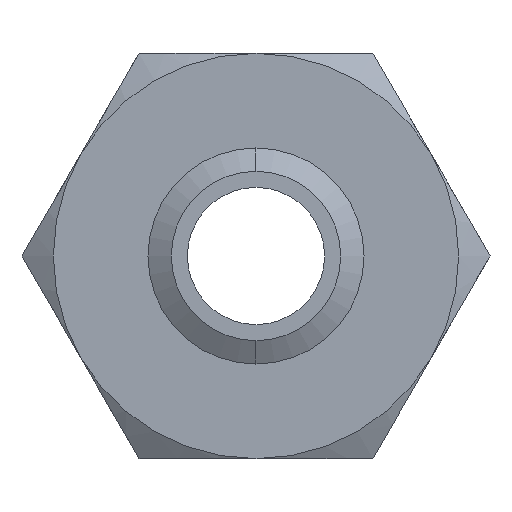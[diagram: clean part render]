
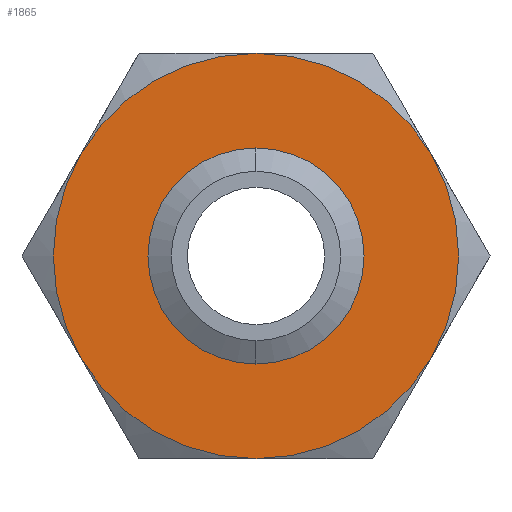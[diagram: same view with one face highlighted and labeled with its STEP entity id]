
A CAD part, front view. The second image highlights one B-rep face of the part: STEP entity #1865.
In plain terms, the highlighted planar face has unit normal (0, -1, 0).
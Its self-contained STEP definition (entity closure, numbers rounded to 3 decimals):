
#1293 = CIRCLE ( 'NONE', #1352, 15.67 ) ;
#1323 = FACE_BOUND ( 'NONE', #1847, .T. ) ;
#1324 = FACE_OUTER_BOUND ( 'NONE', #1864, .T. ) ;
#1325 = DIRECTION ( 'NONE',  ( 0., 0., 1. ) ) ;
#1326 = DIRECTION ( 'NONE',  ( 0., 1., 0. ) ) ;
#1327 = CARTESIAN_POINT ( 'NONE',  ( 0., 0., 0. ) ) ;
#1328 = AXIS2_PLACEMENT_3D ( 'NONE', #1327, #1326, #1325 ) ;
#1329 = CIRCLE ( 'NONE', #1328, 37.5 ) ;
#1330 = CARTESIAN_POINT ( 'NONE',  ( 0., 0., 37.5 ) ) ;
#1336 = DIRECTION ( 'NONE',  ( 0., 0., 1. ) ) ;
#1337 = DIRECTION ( 'NONE',  ( 0., 1., 0. ) ) ;
#1338 = CARTESIAN_POINT ( 'NONE',  ( 0., 0., 0. ) ) ;
#1339 = AXIS2_PLACEMENT_3D ( 'NONE', #1338, #1337, #1336 ) ;
#1340 = CIRCLE ( 'NONE', #1339, 37.5 ) ;
#1349 = DIRECTION ( 'NONE',  ( 0., 0., -1. ) ) ;
#1350 = DIRECTION ( 'NONE',  ( 0., -1., 0. ) ) ;
#1351 = CARTESIAN_POINT ( 'NONE',  ( 0., 0., 0. ) ) ;
#1352 = AXIS2_PLACEMENT_3D ( 'NONE', #1351, #1350, #1349 ) ;
#1357 = DIRECTION ( 'NONE',  ( 0., 0., 1. ) ) ;
#1358 = DIRECTION ( 'NONE',  ( 0., 1., 0. ) ) ;
#1359 = CARTESIAN_POINT ( 'NONE',  ( 0., 0., 0. ) ) ;
#1360 = AXIS2_PLACEMENT_3D ( 'NONE', #1359, #1358, #1357 ) ;
#1361 = CIRCLE ( 'NONE', #1360, 37.5 ) ;
#1362 = CARTESIAN_POINT ( 'NONE',  ( 0., 0., -37.5 ) ) ;
#1364 = CARTESIAN_POINT ( 'NONE',  ( -32.476, 0., -18.75 ) ) ;
#1365 = DIRECTION ( 'NONE',  ( 0., 0., 1. ) ) ;
#1366 = DIRECTION ( 'NONE',  ( 0., 1., 0. ) ) ;
#1367 = CARTESIAN_POINT ( 'NONE',  ( 0., 0., 0. ) ) ;
#1368 = AXIS2_PLACEMENT_3D ( 'NONE', #1367, #1366, #1365 ) ;
#1369 = CIRCLE ( 'NONE', #1368, 37.5 ) ;
#1374 = CARTESIAN_POINT ( 'NONE',  ( -32.476, 0., 18.75 ) ) ;
#1375 = DIRECTION ( 'NONE',  ( 0., 0., 1. ) ) ;
#1376 = DIRECTION ( 'NONE',  ( 0., 1., 0. ) ) ;
#1377 = CARTESIAN_POINT ( 'NONE',  ( 0., 0., 0. ) ) ;
#1378 = AXIS2_PLACEMENT_3D ( 'NONE', #1377, #1376, #1375 ) ;
#1379 = CIRCLE ( 'NONE', #1378, 37.5 ) ;
#1384 = DIRECTION ( 'NONE',  ( 0., 0., 1. ) ) ;
#1385 = DIRECTION ( 'NONE',  ( 0., 1., 0. ) ) ;
#1386 = CARTESIAN_POINT ( 'NONE',  ( 21.651, 0., -37.5 ) ) ;
#1387 = AXIS2_PLACEMENT_3D ( 'NONE', #1386, #1385, #1384 ) ;
#1388 = PLANE ( 'NONE',  #1387 ) ;
#1389 = CARTESIAN_POINT ( 'NONE',  ( 32.476, 0., 18.75 ) ) ;
#1416 = DIRECTION ( 'NONE',  ( 0., 0., 1. ) ) ;
#1417 = DIRECTION ( 'NONE',  ( 0., 1., 0. ) ) ;
#1419 = CARTESIAN_POINT ( 'NONE',  ( 0., 0., 0. ) ) ;
#1420 = AXIS2_PLACEMENT_3D ( 'NONE', #1419, #1417, #1416 ) ;
#1421 = CIRCLE ( 'NONE', #1420, 37.5 ) ;
#1422 = CARTESIAN_POINT ( 'NONE',  ( 32.476, 0., -18.75 ) ) ;
#1455 = DIRECTION ( 'NONE',  ( 0., -1., 0. ) ) ;
#1456 = CARTESIAN_POINT ( 'NONE',  ( 0., 0., 0. ) ) ;
#1457 = AXIS2_PLACEMENT_3D ( 'NONE', #1456, #1455, #1517 ) ;
#1461 = CIRCLE ( 'NONE', #1457, 15.67 ) ;
#1471 = CARTESIAN_POINT ( 'NONE',  ( 0., 0., 15.67 ) ) ;
#1473 = CARTESIAN_POINT ( 'NONE',  ( 0., 0., -15.67 ) ) ;
#1517 = DIRECTION ( 'NONE',  ( 0., 0., -1. ) ) ;
#1846 = EDGE_CURVE ( 'NONE', #1923, #1922, #1293, .T. ) ;
#1847 = EDGE_LOOP ( 'NONE', ( #1848, #1850 ) ) ;
#1848 = ORIENTED_EDGE ( 'NONE', *, *, #1928, .F. ) ;
#1850 = ORIENTED_EDGE ( 'NONE', *, *, #1846, .F. ) ;
#1857 = ORIENTED_EDGE ( 'NONE', *, *, #1858, .F. ) ;
#1858 = EDGE_CURVE ( 'NONE', #1867, #1882, #1340, .T. ) ;
#1861 = EDGE_CURVE ( 'NONE', #1863, #1867, #1329, .T. ) ;
#1863 = VERTEX_POINT ( 'NONE', #1330 ) ;
#1864 = EDGE_LOOP ( 'NONE', ( #1866, #1869, #1873, #1876, #1880, #1857 ) ) ;
#1865 = ADVANCED_FACE ( 'NONE', ( #1324, #1323 ), #1388, .F. ) ;
#1866 = ORIENTED_EDGE ( 'NONE', *, *, #1861, .F. ) ;
#1867 = VERTEX_POINT ( 'NONE', #1389 ) ;
#1869 = ORIENTED_EDGE ( 'NONE', *, *, #1870, .F. ) ;
#1870 = EDGE_CURVE ( 'NONE', #1871, #1863, #1379, .T. ) ;
#1871 = VERTEX_POINT ( 'NONE', #1374 ) ;
#1873 = ORIENTED_EDGE ( 'NONE', *, *, #1874, .F. ) ;
#1874 = EDGE_CURVE ( 'NONE', #1875, #1871, #1369, .T. ) ;
#1875 = VERTEX_POINT ( 'NONE', #1364 ) ;
#1876 = ORIENTED_EDGE ( 'NONE', *, *, #1878, .F. ) ;
#1878 = EDGE_CURVE ( 'NONE', #1879, #1875, #1361, .T. ) ;
#1879 = VERTEX_POINT ( 'NONE', #1362 ) ;
#1880 = ORIENTED_EDGE ( 'NONE', *, *, #1881, .F. ) ;
#1881 = EDGE_CURVE ( 'NONE', #1882, #1879, #1421, .T. ) ;
#1882 = VERTEX_POINT ( 'NONE', #1422 ) ;
#1922 = VERTEX_POINT ( 'NONE', #1473 ) ;
#1923 = VERTEX_POINT ( 'NONE', #1471 ) ;
#1928 = EDGE_CURVE ( 'NONE', #1922, #1923, #1461, .T. ) ;
